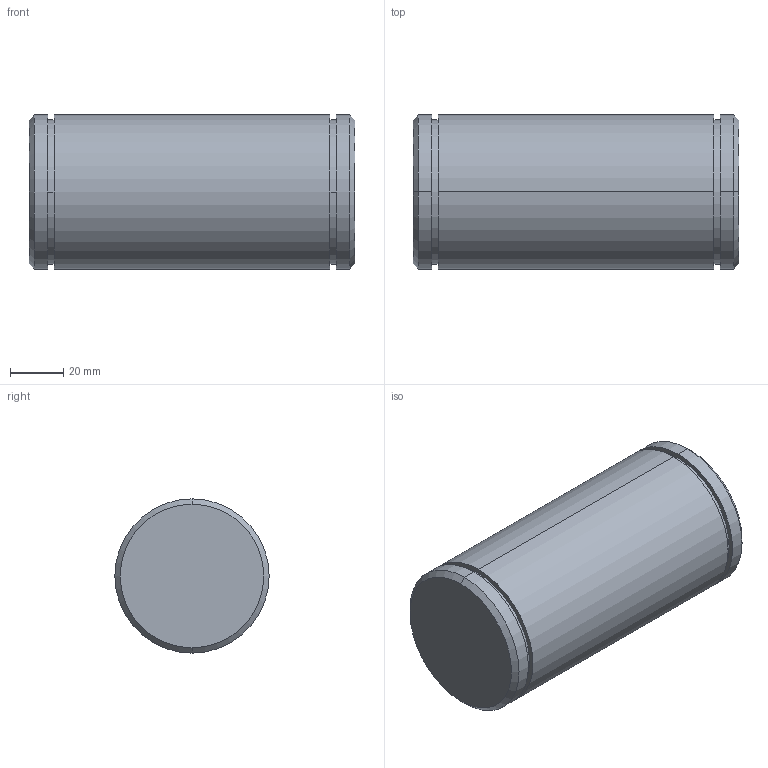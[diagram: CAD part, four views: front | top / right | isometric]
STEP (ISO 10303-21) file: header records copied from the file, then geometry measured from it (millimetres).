
FILE_DESCRIPTION (( 'STEP AP203' ), '1' );
FILE_NAME ('Bolzen Sicherungsring B M56.STEP', '2018-02-22T05:40:53', ( 'install' ), ( 'Hewlett-Packard Company' ), 'SwSTEP 2.0', 'SolidWorks 2017', '' );
FILE_SCHEMA (( 'CONFIG_CONTROL_DESIGN' ));
Length unit declared in the file: millimetre
Products named in the file (1): Bolzen Sicherungsring B M56
Bounding box: 122.6 x 58 x 58 mm (x, y, z)
Volume: 321640.4 mm3; surface area: 28435.6 mm2
Topology: 1 solids, 1 shells, 20 faces, 38 edges, 24 vertices
Faces by surface type: cylinder 10, plane 6, cone 4
Entity records: 591 total; most frequent: DIRECTION 104, CARTESIAN_POINT 83, ORIENTED_EDGE 76, AXIS2_PLACEMENT_3D 45, EDGE_CURVE 38, CIRCLE 24, VERTEX_POINT 24, EDGE_LOOP 24
